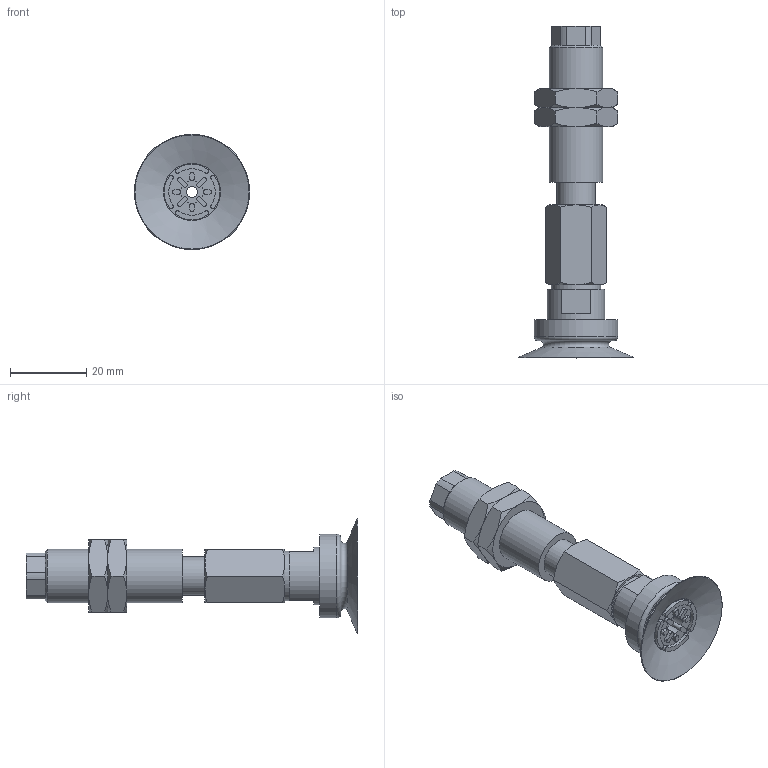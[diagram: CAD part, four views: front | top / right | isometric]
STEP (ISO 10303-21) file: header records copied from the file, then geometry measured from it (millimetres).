
FILE_DESCRIPTION(('STEP AP203'),'1');
FILE_NAME('.stp','2025-08-26T09:02:06',(' '),(' '),'Spatial InterOp 3D',' ',' ');
FILE_SCHEMA(('CONFIG_CONTROL_DESIGN'));
Length unit declared in the file: millimetre
Products named in the file (6): BNABPATS-30-6-※; ADAPTER; NAPATS-30B-6--M; NAPATS-30B-6--F; Nut-25-S; BPAG-30-※
Assembly tree (6 placements, depth 2):
  BNABPATS-30-6-※
    ADAPTER
    NAPATS-30B-6--M
    NAPATS-30B-6--F
    Nut-25-S  x2
    BPAG-30-※
Bounding box: 30.3 x 87.2 x 30.3 mm (x, y, z)
Volume: 15492.2 mm3; surface area: 11554.2 mm2
Topology: 6 solids, 6 shells, 182 faces, 423 edges, 266 vertices
Faces by surface type: plane 77, cylinder 57, cone 46, torus 2
Full cylindrical faces by diameter (mm): 3 x3, 4.134 x1, 4.6 x1, 4.917 x1, 6 x1, 10 x2, 12.917 x2, 13 x1, 14 x1, 15 x1, 22 x1
Entity records: 4995 total; most frequent: CARTESIAN_POINT 1084, DIRECTION 789, ORIENTED_EDGE 694, EDGE_CURVE 347, AXIS2_PLACEMENT_3D 324, VERTEX_POINT 235, EDGE_LOOP 206, FACE_OUTER_BOUND 175
